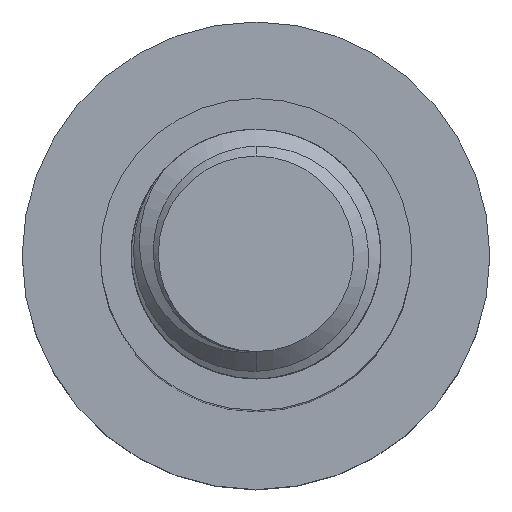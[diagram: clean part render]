
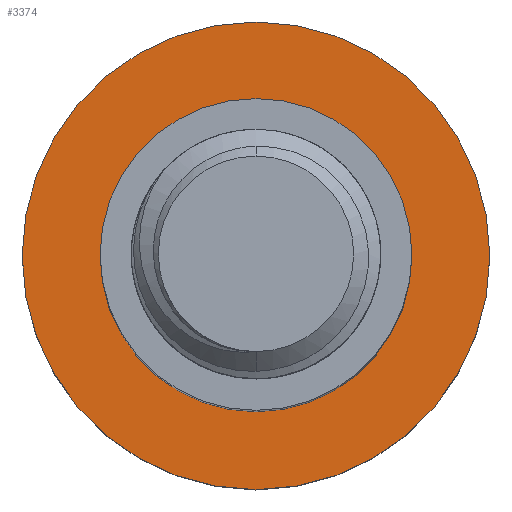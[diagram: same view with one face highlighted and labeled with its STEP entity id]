
A CAD part, top view. The second image highlights one B-rep face of the part: STEP entity #3374.
In plain terms, the highlighted planar face has unit normal (0, 0, 1).
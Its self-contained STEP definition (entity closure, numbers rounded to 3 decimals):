
#259 = FACE_OUTER_BOUND ( 'NONE', #4227, .T. ) ;
#526 = CIRCLE ( 'NONE', #4223, 15. ) ;
#630 = VERTEX_POINT ( 'NONE', #3975 ) ;
#1201 = DIRECTION ( 'NONE',  ( -1., 0., 0. ) ) ;
#1212 = DIRECTION ( 'NONE',  ( 0., 0., -1. ) ) ;
#1268 = DIRECTION ( 'NONE',  ( -1., 0., 0. ) ) ;
#1289 = CARTESIAN_POINT ( 'NONE',  ( 0., 0., -50. ) ) ;
#1320 = EDGE_CURVE ( 'NONE', #3079, #630, #5402, .T. ) ;
#1486 = DIRECTION ( 'NONE',  ( -1., 0., 0. ) ) ;
#1535 = CIRCLE ( 'NONE', #2718, 10. ) ;
#1711 = CIRCLE ( 'NONE', #2458, 15. ) ;
#1830 = CARTESIAN_POINT ( 'NONE',  ( -15., 0., -50. ) ) ;
#1895 = VERTEX_POINT ( 'NONE', #1830 ) ;
#1970 = DIRECTION ( 'NONE',  ( 0., 0., -1. ) ) ;
#2000 = FACE_BOUND ( 'NONE', #2001, .T. ) ;
#2001 = EDGE_LOOP ( 'NONE', ( #3918, #2202 ) ) ;
#2085 = AXIS2_PLACEMENT_3D ( 'NONE', #2493, #1970, #1201 ) ;
#2202 = ORIENTED_EDGE ( 'NONE', *, *, #1320, .T. ) ;
#2458 = AXIS2_PLACEMENT_3D ( 'NONE', #4038, #5043, #1486 ) ;
#2493 = CARTESIAN_POINT ( 'NONE',  ( 0., 0., -50. ) ) ;
#2521 = EDGE_CURVE ( 'NONE', #630, #3079, #1535, .T. ) ;
#2606 = DIRECTION ( 'NONE',  ( -1., 0., 0. ) ) ;
#2718 = AXIS2_PLACEMENT_3D ( 'NONE', #3697, #5451, #4188 ) ;
#2870 = EDGE_CURVE ( 'NONE', #3552, #1895, #1711, .T. ) ;
#3079 = VERTEX_POINT ( 'NONE', #5614 ) ;
#3091 = CARTESIAN_POINT ( 'NONE',  ( 15., 0., -50. ) ) ;
#3374 = ADVANCED_FACE ( 'NONE', ( #2000, #259 ), #4656, .F. ) ;
#3492 = CARTESIAN_POINT ( 'NONE',  ( 0., 0., -50. ) ) ;
#3552 = VERTEX_POINT ( 'NONE', #3091 ) ;
#3643 = AXIS2_PLACEMENT_3D ( 'NONE', #1289, #4811, #2606 ) ;
#3697 = CARTESIAN_POINT ( 'NONE',  ( 0., 0., -50. ) ) ;
#3918 = ORIENTED_EDGE ( 'NONE', *, *, #2521, .T. ) ;
#3975 = CARTESIAN_POINT ( 'NONE',  ( -10., 0., -50. ) ) ;
#4038 = CARTESIAN_POINT ( 'NONE',  ( 0., 0., -50. ) ) ;
#4048 = EDGE_CURVE ( 'NONE', #1895, #3552, #526, .T. ) ;
#4188 = DIRECTION ( 'NONE',  ( -1., 0., 0. ) ) ;
#4223 = AXIS2_PLACEMENT_3D ( 'NONE', #3492, #1212, #1268 ) ;
#4227 = EDGE_LOOP ( 'NONE', ( #4719, #5396 ) ) ;
#4656 = PLANE ( 'NONE',  #2085 ) ;
#4719 = ORIENTED_EDGE ( 'NONE', *, *, #2870, .F. ) ;
#4811 = DIRECTION ( 'NONE',  ( 0., 0., -1. ) ) ;
#5043 = DIRECTION ( 'NONE',  ( 0., 0., -1. ) ) ;
#5396 = ORIENTED_EDGE ( 'NONE', *, *, #4048, .F. ) ;
#5402 = CIRCLE ( 'NONE', #3643, 10. ) ;
#5451 = DIRECTION ( 'NONE',  ( 0., 0., -1. ) ) ;
#5614 = CARTESIAN_POINT ( 'NONE',  ( 10., 0., -50. ) ) ;
